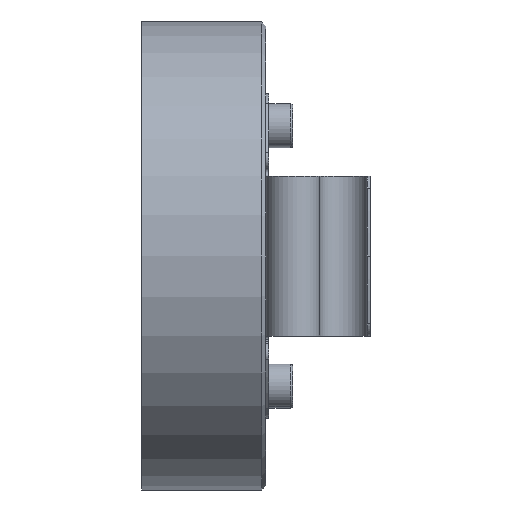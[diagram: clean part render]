
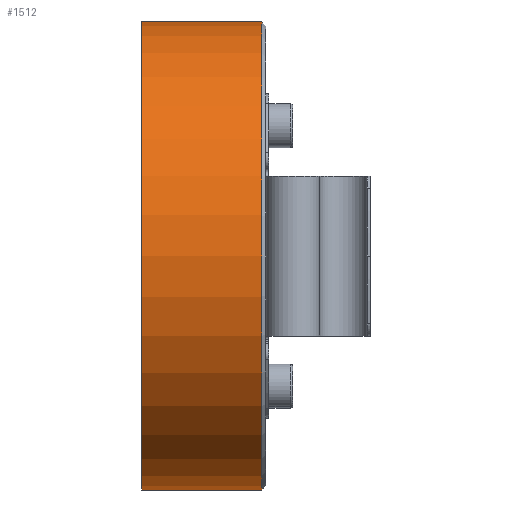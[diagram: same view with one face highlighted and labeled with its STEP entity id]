
A CAD part, left-side view. The second image highlights one B-rep face of the part: STEP entity #1512.
In plain terms, the highlighted cylindrical face has radius 29.25 mm (diameter 58.5 mm), a partial arc.
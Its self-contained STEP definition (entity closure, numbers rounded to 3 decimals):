
#571 = CARTESIAN_POINT ( 'NONE',  ( 0., 0.5, 0. ) ) ;
#575 = VERTEX_POINT ( 'NONE', #9277 ) ;
#1512 = ADVANCED_FACE ( 'NONE', ( #9025 ), #2451, .T. ) ;
#1549 = DIRECTION ( 'NONE',  ( 0., 1., 0. ) ) ;
#2245 = DIRECTION ( 'NONE',  ( 0., 0., -1. ) ) ;
#2314 = DIRECTION ( 'NONE',  ( 0., 1., 0. ) ) ;
#2451 = CYLINDRICAL_SURFACE ( 'NONE', #13836, 29.25 ) ;
#2481 = VERTEX_POINT ( 'NONE', #19983 ) ;
#5362 = CARTESIAN_POINT ( 'NONE',  ( 0., 32.8, 0. ) ) ;
#5999 = DIRECTION ( 'NONE',  ( 0., 1., 0. ) ) ;
#6313 = CARTESIAN_POINT ( 'NONE',  ( 0., 32.8, 29.25 ) ) ;
#6341 = EDGE_CURVE ( 'NONE', #14393, #575, #17773, .T. ) ;
#6595 = CARTESIAN_POINT ( 'NONE',  ( 0., 15.5, 0. ) ) ;
#6602 = EDGE_CURVE ( 'NONE', #2481, #575, #14895, .T. ) ;
#7380 = DIRECTION ( 'NONE',  ( 0., 1., 0. ) ) ;
#7584 = CARTESIAN_POINT ( 'NONE',  ( 0., 15.5, -29.25 ) ) ;
#8559 = LINE ( 'NONE', #20741, #8829 ) ;
#8829 = VECTOR ( 'NONE', #7380, 1000. ) ;
#8907 = DIRECTION ( 'NONE',  ( 0., 1., 0. ) ) ;
#8979 = DIRECTION ( 'NONE',  ( 0., 0., 1. ) ) ;
#9025 = FACE_OUTER_BOUND ( 'NONE', #20891, .T. ) ;
#9277 = CARTESIAN_POINT ( 'NONE',  ( 0., 15.5, 29.25 ) ) ;
#9436 = AXIS2_PLACEMENT_3D ( 'NONE', #571, #2314, #2245 ) ;
#9972 = ORIENTED_EDGE ( 'NONE', *, *, #6341, .F. ) ;
#10051 = DIRECTION ( 'NONE',  ( 0., 0., 1. ) ) ;
#10887 = ORIENTED_EDGE ( 'NONE', *, *, #21361, .T. ) ;
#11256 = CARTESIAN_POINT ( 'NONE',  ( 0., 0.5, -29.25 ) ) ;
#12321 = ORIENTED_EDGE ( 'NONE', *, *, #6602, .T. ) ;
#13836 = AXIS2_PLACEMENT_3D ( 'NONE', #5362, #8907, #8979 ) ;
#14393 = VERTEX_POINT ( 'NONE', #7584 ) ;
#14895 = LINE ( 'NONE', #6313, #15940 ) ;
#15866 = CIRCLE ( 'NONE', #9436, 29.25 ) ;
#15940 = VECTOR ( 'NONE', #5999, 1000. ) ;
#16602 = VERTEX_POINT ( 'NONE', #11256 ) ;
#16798 = AXIS2_PLACEMENT_3D ( 'NONE', #6595, #1549, #10051 ) ;
#17773 = CIRCLE ( 'NONE', #16798, 29.25 ) ;
#18356 = EDGE_CURVE ( 'NONE', #16602, #14393, #8559, .T. ) ;
#19898 = ORIENTED_EDGE ( 'NONE', *, *, #18356, .F. ) ;
#19983 = CARTESIAN_POINT ( 'NONE',  ( 0., 0.5, 29.25 ) ) ;
#20741 = CARTESIAN_POINT ( 'NONE',  ( 0., 32.8, -29.25 ) ) ;
#20891 = EDGE_LOOP ( 'NONE', ( #19898, #10887, #12321, #9972 ) ) ;
#21361 = EDGE_CURVE ( 'NONE', #16602, #2481, #15866, .T. ) ;
